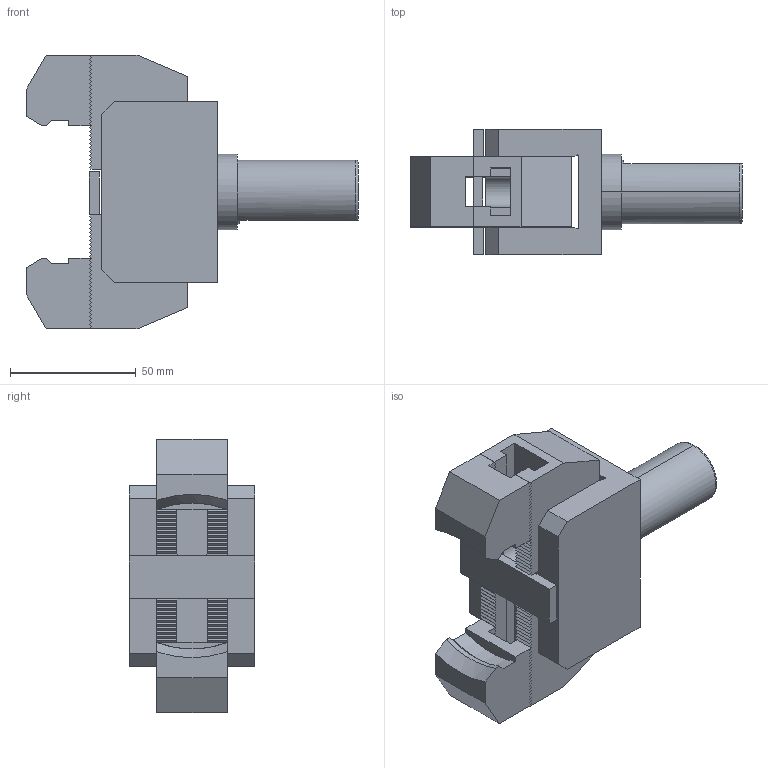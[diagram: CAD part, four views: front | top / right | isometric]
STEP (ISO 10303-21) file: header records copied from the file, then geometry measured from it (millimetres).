
FILE_DESCRIPTION (( 'STEP AP214' ), '1' );
FILE_NAME ('Bar puller, 1.0 INCH shank.STEP', '2024-03-13T08:46:14', ( '' ), ( '' ), 'SwSTEP 2.0', 'SolidWorks 2022', '' );
FILE_SCHEMA (( 'AUTOMOTIVE_DESIGN' ));
Length unit declared in the file: millimetre
Products named in the file (1): Bar puller, 1.0 INCH shank
Bounding box: 132.2 x 50 x 109 mm (x, y, z)
Volume: 209740.8 mm3; surface area: 57104.4 mm2
Topology: 6 solids, 6 shells, 488 faces, 1414 edges, 940 vertices
Faces by surface type: plane 470, cylinder 12, cone 4, torus 2
Entity records: 21255 total; most frequent: CARTESIAN_POINT 2935, ORIENTED_EDGE 2828, DIRECTION 2410, EDGE_CURVE 1414, LINE 1364, VECTOR 1364, VERTEX_POINT 940, AXIS2_PLACEMENT_3D 523
